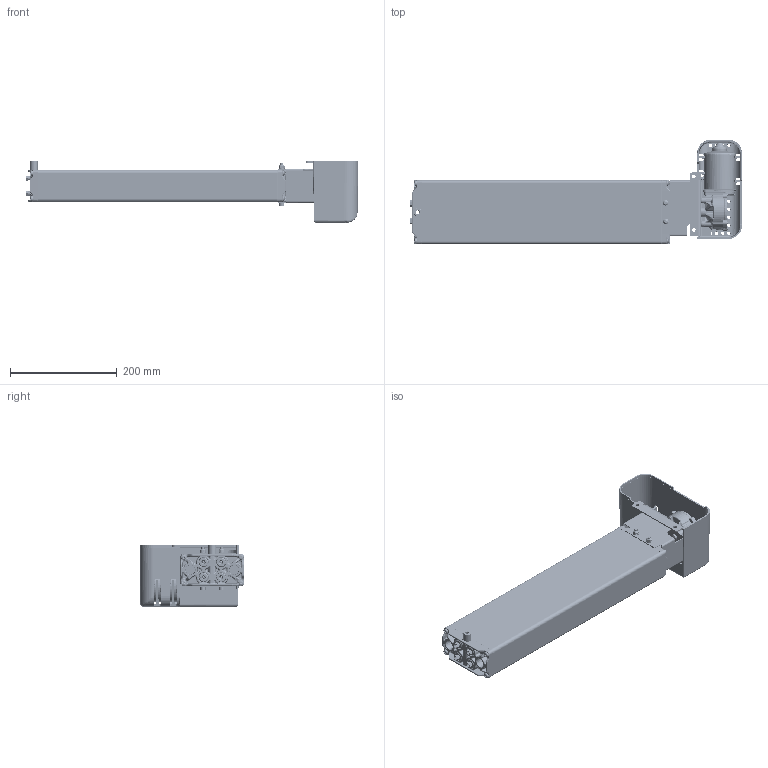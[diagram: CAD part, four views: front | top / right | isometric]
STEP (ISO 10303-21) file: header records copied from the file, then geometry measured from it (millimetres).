
FILE_DESCRIPTION(/* description */ ('Unknown'),/* implementation_level */ '2;1');
FILE_NAME(/* name */ '3X2.20054 Pumpe PB 4640 W mit Antrieb',/* time_stamp */ '2016-09-02T13:57:52+02:00',/* author */ ('Unknown'),/* organization */ ('Unknown'),/* preprocessor_version */ 'ST-DEVELOPER v16.7',/* originating_system */ 'DEX',/* authorisation */ $);
FILE_SCHEMA (('AUTOMOTIVE_DESIGN {1 0 10303 214 3 1 1}'));
Products named in the file (31): 102.20054; 115.00042; 125.00046; 142.00021; 125.00021; 115.00003; 142.00013; 125.00143; 115.00140; 126.00006; 122.00040; 119.00043; 126.00005; 127.00201; 127.00200; 127.00023; 124.00090; Getriebe; Ring; Schraube; Stator; Abdeckplatte; Antriebswelle; 128.00051; 123.00031; 142.00018; 142.00019; 142.00025; 142.00131; 123.00029; 142.00057
Assembly tree (45 placements, depth 3):
  102.20054
    115.00042  x4
      125.00046
      142.00021
      125.00021
      115.00003
    142.00013  x8
    125.00143
    115.00140
      126.00006
      122.00040
    119.00043
    126.00005
    127.00201
      127.00200
      127.00023
    124.00090
      Getriebe
      Ring
      Schraube
      Stator
      Abdeckplatte
      Antriebswelle
    128.00051
    123.00031
    142.00018  x2
    142.00019  x2
    142.00025  x2
    142.00131  x3
    123.00029
    142.00057
Bounding box: 623.42 x 196.04 x 115.45 mm (x, y, z)
Volume: 1124130.7 mm3; surface area: 713685.7 mm2
Topology: 46 solids, 48 shells, 4762 faces, 12086 edges, 7323 vertices
Faces by surface type: bspline 1367, plane 1289, cylinder 1255, cone 487, torus 266, sphere 98
Full cylindrical faces by diameter (mm): 2.5 x4, 3.2 x4, 3.5 x4, 3.9 x5, 4.1 x4, 4.2 x6, 4.4 x5, 4.5 x1, 4.917 x2, 5 x8, 5.5 x5, 6 x6, 6.4 x2, 6.8 x5, 6.917 x8, 7 x1, 8 x10, 8.5 x6, 9 x2, 9.5 x1, 9.8 x8, 10 x8, 10.3 x1, 10.32 x1, 10.4 x1, 11 x5, 14 x2, 15 x1, 17 x1, 17.3 x4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
Entity records: 202538 total; most frequent: CARTESIAN_POINT 105863, ORIENTED_EDGE 19210, DIRECTION 14202, EDGE_CURVE 9605, VERTEX_POINT 6188, AXIS2_PLACEMENT_3D 5591, FACE_BOUND 4587, EDGE_LOOP 4582
